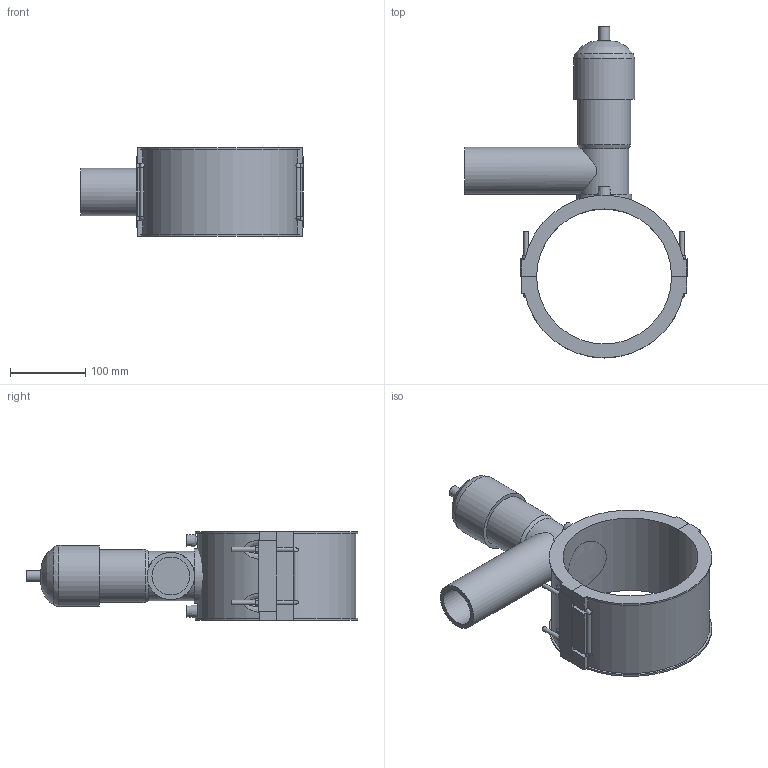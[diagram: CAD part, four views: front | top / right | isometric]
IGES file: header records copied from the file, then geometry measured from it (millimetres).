
Global section: file name: 495404180063.ipt; native system: Autodesk Inventor 2015; preprocessor: unknown; author: KIM; date: 20171106.094305; units: millimetre
Bounding box: 297 x 442.46 x 118 mm (x, y, z)
Volume: 2231201.9 mm3; surface area: 316108.1 mm2
Topology: 3 solids, 5 shells, 157 faces, 393 edges, 249 vertices
Faces by surface type: plane 93, cylinder 29, revolution 16, bspline 12, cone 7
Full cylindrical faces by diameter (mm): 4 x2, 6 x8, 14.64 x1, 63 x1, 70.76 x1, 73.2 x1, 81.333 x1
